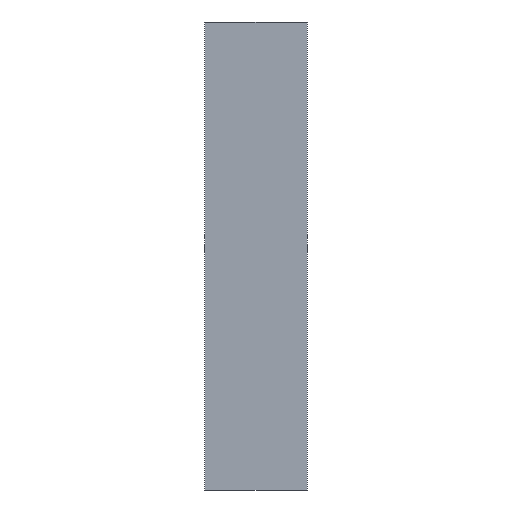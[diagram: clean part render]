
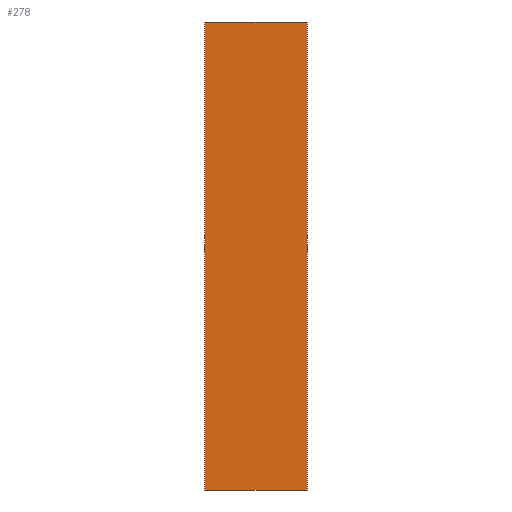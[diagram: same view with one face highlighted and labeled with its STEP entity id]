
A CAD part, front view. The second image highlights one B-rep face of the part: STEP entity #278.
In plain terms, the highlighted planar face has unit normal (0, -1, 0).
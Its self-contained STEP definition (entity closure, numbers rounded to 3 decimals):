
#62 = EDGE_CURVE('',#63,#65,#67,.T.);
#63 = VERTEX_POINT('',#64);
#64 = CARTESIAN_POINT('',(-10.5,-0.1,-48.));
#65 = VERTEX_POINT('',#66);
#66 = CARTESIAN_POINT('',(-10.5,-0.1,48.));
#67 = SURFACE_CURVE('',#68,(#72,#84),.PCURVE_S1.);
#68 = LINE('',#69,#70);
#69 = CARTESIAN_POINT('',(-10.5,-0.1,-48.));
#70 = VECTOR('',#71,1.);
#71 = DIRECTION('',(0.,0.,1.));
#72 = PCURVE('',#73,#78);
#73 = PLANE('',#74);
#74 = AXIS2_PLACEMENT_3D('',#75,#76,#77);
#75 = CARTESIAN_POINT('',(-10.5,-0.1,-48.));
#76 = DIRECTION('',(1.,0.,0.));
#77 = DIRECTION('',(0.,0.,1.));
#78 = DEFINITIONAL_REPRESENTATION('',(#79),#83);
#79 = LINE('',#80,#81);
#80 = CARTESIAN_POINT('',(0.,0.));
#81 = VECTOR('',#82,1.);
#82 = DIRECTION('',(1.,0.));
#83 = ( GEOMETRIC_REPRESENTATION_CONTEXT(2) 
PARAMETRIC_REPRESENTATION_CONTEXT() REPRESENTATION_CONTEXT('2D SPACE',''
  ) );
#84 = PCURVE('',#85,#90);
#85 = PLANE('',#86);
#86 = AXIS2_PLACEMENT_3D('',#87,#88,#89);
#87 = CARTESIAN_POINT('',(-10.5,-0.1,-48.));
#88 = DIRECTION('',(0.,1.,0.));
#89 = DIRECTION('',(0.,-0.,1.));
#90 = DEFINITIONAL_REPRESENTATION('',(#91),#95);
#91 = LINE('',#92,#93);
#92 = CARTESIAN_POINT('',(0.,0.));
#93 = VECTOR('',#94,1.);
#94 = DIRECTION('',(1.,0.));
#95 = ( GEOMETRIC_REPRESENTATION_CONTEXT(2) 
PARAMETRIC_REPRESENTATION_CONTEXT() REPRESENTATION_CONTEXT('2D SPACE',''
  ) );
#113 = PLANE('',#114);
#114 = AXIS2_PLACEMENT_3D('',#115,#116,#117);
#115 = CARTESIAN_POINT('',(-10.5,-0.1,-48.));
#116 = DIRECTION('',(0.,0.,1.));
#117 = DIRECTION('',(1.,0.,-0.));
#167 = PLANE('',#168);
#168 = AXIS2_PLACEMENT_3D('',#169,#170,#171);
#169 = CARTESIAN_POINT('',(-10.5,-0.1,48.));
#170 = DIRECTION('',(0.,0.,1.));
#171 = DIRECTION('',(1.,0.,-0.));
#182 = EDGE_CURVE('',#183,#185,#187,.T.);
#183 = VERTEX_POINT('',#184);
#184 = CARTESIAN_POINT('',(10.5,-0.1,-48.));
#185 = VERTEX_POINT('',#186);
#186 = CARTESIAN_POINT('',(10.5,-0.1,48.));
#187 = SURFACE_CURVE('',#188,(#192,#204),.PCURVE_S1.);
#188 = LINE('',#189,#190);
#189 = CARTESIAN_POINT('',(10.5,-0.1,-48.));
#190 = VECTOR('',#191,1.);
#191 = DIRECTION('',(0.,0.,1.));
#192 = PCURVE('',#193,#198);
#193 = PLANE('',#194);
#194 = AXIS2_PLACEMENT_3D('',#195,#196,#197);
#195 = CARTESIAN_POINT('',(10.5,-0.1,-48.));
#196 = DIRECTION('',(1.,0.,0.));
#197 = DIRECTION('',(0.,0.,1.));
#198 = DEFINITIONAL_REPRESENTATION('',(#199),#203);
#199 = LINE('',#200,#201);
#200 = CARTESIAN_POINT('',(0.,0.));
#201 = VECTOR('',#202,1.);
#202 = DIRECTION('',(1.,0.));
#203 = ( GEOMETRIC_REPRESENTATION_CONTEXT(2) 
PARAMETRIC_REPRESENTATION_CONTEXT() REPRESENTATION_CONTEXT('2D SPACE',''
  ) );
#204 = PCURVE('',#85,#205);
#205 = DEFINITIONAL_REPRESENTATION('',(#206),#210);
#206 = LINE('',#207,#208);
#207 = CARTESIAN_POINT('',(0.,21.));
#208 = VECTOR('',#209,1.);
#209 = DIRECTION('',(1.,0.));
#210 = ( GEOMETRIC_REPRESENTATION_CONTEXT(2) 
PARAMETRIC_REPRESENTATION_CONTEXT() REPRESENTATION_CONTEXT('2D SPACE',''
  ) );
#278 = ADVANCED_FACE('',(#279),#85,.F.);
#279 = FACE_BOUND('',#280,.F.);
#280 = EDGE_LOOP('',(#281,#302,#303,#324));
#281 = ORIENTED_EDGE('',*,*,#282,.F.);
#282 = EDGE_CURVE('',#63,#183,#283,.T.);
#283 = SURFACE_CURVE('',#284,(#288,#295),.PCURVE_S1.);
#284 = LINE('',#285,#286);
#285 = CARTESIAN_POINT('',(-10.5,-0.1,-48.));
#286 = VECTOR('',#287,1.);
#287 = DIRECTION('',(1.,0.,0.));
#288 = PCURVE('',#85,#289);
#289 = DEFINITIONAL_REPRESENTATION('',(#290),#294);
#290 = LINE('',#291,#292);
#291 = CARTESIAN_POINT('',(0.,0.));
#292 = VECTOR('',#293,1.);
#293 = DIRECTION('',(0.,1.));
#294 = ( GEOMETRIC_REPRESENTATION_CONTEXT(2) 
PARAMETRIC_REPRESENTATION_CONTEXT() REPRESENTATION_CONTEXT('2D SPACE',''
  ) );
#295 = PCURVE('',#113,#296);
#296 = DEFINITIONAL_REPRESENTATION('',(#297),#301);
#297 = LINE('',#298,#299);
#298 = CARTESIAN_POINT('',(0.,0.));
#299 = VECTOR('',#300,1.);
#300 = DIRECTION('',(1.,0.));
#301 = ( GEOMETRIC_REPRESENTATION_CONTEXT(2) 
PARAMETRIC_REPRESENTATION_CONTEXT() REPRESENTATION_CONTEXT('2D SPACE',''
  ) );
#302 = ORIENTED_EDGE('',*,*,#62,.T.);
#303 = ORIENTED_EDGE('',*,*,#304,.T.);
#304 = EDGE_CURVE('',#65,#185,#305,.T.);
#305 = SURFACE_CURVE('',#306,(#310,#317),.PCURVE_S1.);
#306 = LINE('',#307,#308);
#307 = CARTESIAN_POINT('',(-10.5,-0.1,48.));
#308 = VECTOR('',#309,1.);
#309 = DIRECTION('',(1.,0.,0.));
#310 = PCURVE('',#85,#311);
#311 = DEFINITIONAL_REPRESENTATION('',(#312),#316);
#312 = LINE('',#313,#314);
#313 = CARTESIAN_POINT('',(96.,0.));
#314 = VECTOR('',#315,1.);
#315 = DIRECTION('',(0.,1.));
#316 = ( GEOMETRIC_REPRESENTATION_CONTEXT(2) 
PARAMETRIC_REPRESENTATION_CONTEXT() REPRESENTATION_CONTEXT('2D SPACE',''
  ) );
#317 = PCURVE('',#167,#318);
#318 = DEFINITIONAL_REPRESENTATION('',(#319),#323);
#319 = LINE('',#320,#321);
#320 = CARTESIAN_POINT('',(0.,0.));
#321 = VECTOR('',#322,1.);
#322 = DIRECTION('',(1.,0.));
#323 = ( GEOMETRIC_REPRESENTATION_CONTEXT(2) 
PARAMETRIC_REPRESENTATION_CONTEXT() REPRESENTATION_CONTEXT('2D SPACE',''
  ) );
#324 = ORIENTED_EDGE('',*,*,#182,.F.);
